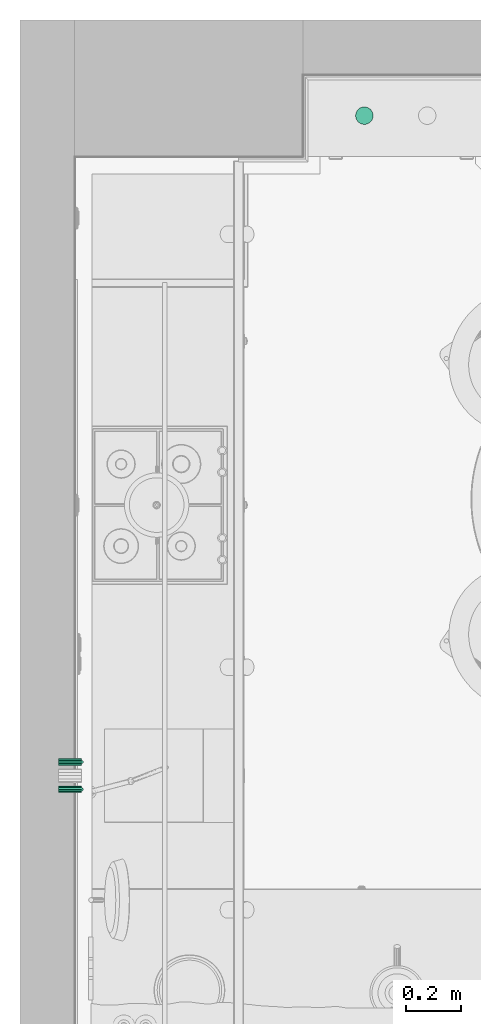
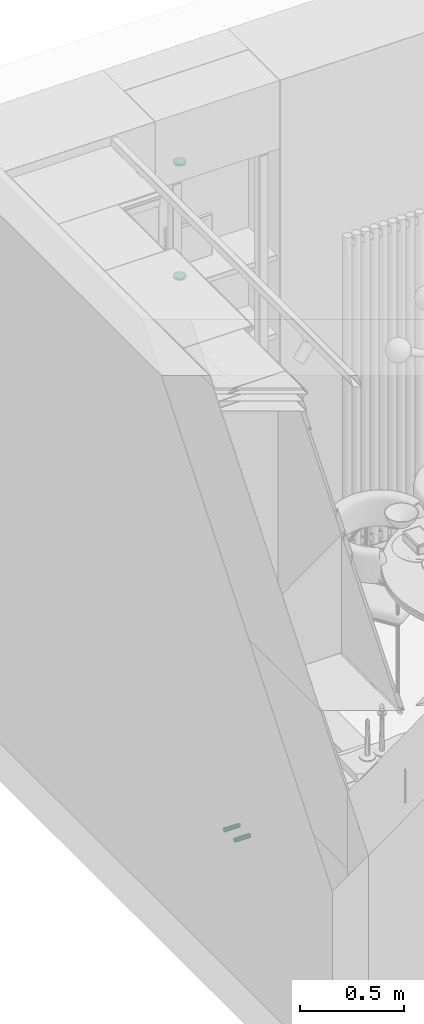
# One storey, part 9 of 11: 2 light fixtures, 2 pipe fittings.
"""IFC4 building model written with IfcOpenShell, lengths in millimetres."""

from ifc_helpers import new_model, si_unit, frame, origin_with_axes, place, context, subcontext, project, spatial, triangles, material, constituent, constituent_set, element, save


model = new_model("IFC4")

# Units and contexts
model_context = context("Model", 3, precision=0.01, world=origin_with_axes())
body_context = subcontext(model_context, "Body", "Model", "MODEL_VIEW")
ifc_project = project(units=[si_unit("LENGTHUNIT", "METRE", prefix="MILLI"), si_unit("AREAUNIT", "SQUARE_METRE"), si_unit("VOLUMEUNIT", "CUBIC_METRE"), si_unit("PLANEANGLEUNIT", "RADIAN")], contexts=[model_context])

# Site, building, storey
site_placement = place(None, origin_with_axes())
site = spatial("IfcSite", under=ifc_project, at=site_placement, Name="Участок", CompositionType="ELEMENT")
building_placement = place(site_placement, origin_with_axes())
building = spatial("IfcBuilding", under=site, at=building_placement, Name="Жилой дом", CompositionType="ELEMENT")
storey_placement = place(building_placement, origin_with_axes())
storey = spatial("IfcBuildingStorey", under=building, at=storey_placement, Name="Квартира ±0,000", CompositionType="ELEMENT", Elevation=0.0)

# Light fixtures
ifc_material_1 = material(Name="Латунь полированная (каркасы, ручки, светильники)")
ifc_constituent_1 = constituent(ifc_material_1)
ifc_material_2 = material(Name="Светодиодная лента (свечение)")
ifc_constituent_2 = constituent(ifc_material_2)
ifc_constituent_set_1 = constituent_set(constituents=[ifc_constituent_1, ifc_constituent_2], Name="Латунь полированная (каркасы, ручки, светильники) + Светодиодная лента (свечение)")
light_fixture_1_placement = place(storey_placement, frame((1028.0, 3418.0, 2587.0)))
element("IfcLightFixture", 1, at=light_fixture_1_placement, inside=storey, material=ifc_constituent_set_1, Name="Светильник мебельный накладной (01г)", PredefinedType="POINTSOURCE", context=body_context, shape_type="Tessellation", body=[
    triangles([(32.0, 32.0, 1.0), (32.0, 32.0, 1.0), (32.0, 32.0, 1.0), (32.0, 32.0, 1.0), (32.0, 32.0, 1.0), (32.0, 32.0, 1.0), (32.0, 32.0, 1.0), (32.0, 32.0, 1.0), (32.0, 32.0, 1.0), (32.0, 32.0, 1.0), (32.0, 32.0, 1.0), (32.0, 32.0, 1.0), (32.0, 32.0, 1.0), (32.0, 32.0, 1.0), (32.0, 32.0, 1.0), (32.0, 32.0, 1.0), (32.0, 32.0, 1.0), (32.0, 32.0, 1.0), (32.0, 32.0, 1.0), (32.0, 32.0, 1.0), (32.0, 32.0, 1.0), (32.0, 32.0, 1.0), (32.0, 32.0, 1.0), (32.0, 32.0, 1.0), (32.0, 32.0, 1.0), (32.0, 32.0, 1.0), (32.0, 32.0, 1.0), (32.0, 32.0, 1.0), (32.0, 32.0, 1.0), (32.0, 32.0, 1.0), (32.0, 32.0, 1.0), (32.0, 32.0, 1.0), (62.0, 32.0, 1.0), (61.4, 37.9, 1.0), (59.7, 43.5, 1.0), (56.9, 48.7, 1.0), (53.2, 53.2, 1.0), (48.7, 56.9, 1.0), (43.5, 59.7, 1.0), (37.9, 61.4, 1.0), (32.0, 62.0, 1.0), (26.1, 61.4, 1.0), (20.5, 59.7, 1.0), (15.3, 56.9, 1.0), (10.8, 53.2, 1.0), (7.1, 48.7, 1.0), (4.3, 43.5, 1.0), (2.6, 37.9, 1.0), (2.0, 32.0, 1.0), (2.6, 26.1, 1.0), (4.3, 20.5, 1.0), (7.1, 15.3, 1.0), (10.8, 10.8, 1.0), (15.3, 7.1, 1.0), (20.5, 4.3, 1.0), (26.1, 2.6, 1.0), (32.0, 2.0, 1.0), (37.9, 2.6, 1.0), (43.5, 4.3, 1.0), (48.7, 7.1, 1.0), (53.2, 10.8, 1.0), (56.9, 15.3, 1.0), (59.7, 20.5, 1.0), (61.4, 26.1, 1.0), (64.0, 32.0, 9.0), (63.4, 38.2, 9.0), (61.6, 44.2, 9.0), (58.6, 49.8, 9.0), (54.6, 54.6, 9.0), (49.8, 58.6, 9.0), (44.2, 61.6, 9.0), (38.2, 63.4, 9.0), (32.0, 64.0, 9.0), (25.8, 63.4, 9.0), (19.8, 61.6, 9.0), (14.2, 58.6, 9.0), (9.4, 54.6, 9.0), (5.4, 49.8, 9.0), (2.4, 44.2, 9.0), (0.6, 38.2, 9.0), (0.0, 32.0, 9.0), (0.6, 25.8, 9.0), (2.4, 19.8, 9.0), (5.4, 14.2, 9.0), (9.4, 9.4, 9.0), (14.2, 5.4, 9.0), (19.8, 2.4, 9.0), (25.8, 0.6, 9.0), (32.0, 0.0, 9.0), (38.2, 0.6, 9.0), (44.2, 2.4, 9.0), (49.8, 5.4, 9.0), (54.6, 9.4, 9.0), (58.6, 14.2, 9.0), (61.6, 19.8, 9.0), (63.4, 25.8, 9.0), (64.0, 32.0, 13.0), (63.4, 38.2, 13.0), (61.6, 44.2, 13.0), (58.6, 49.8, 13.0), (54.6, 54.6, 13.0), (49.8, 58.6, 13.0), (44.2, 61.6, 13.0), (38.2, 63.4, 13.0), (32.0, 64.0, 13.0), (25.8, 63.4, 13.0), (19.8, 61.6, 13.0), (14.2, 58.6, 13.0), (9.4, 54.6, 13.0), (5.4, 49.8, 13.0), (2.4, 44.2, 13.0), (0.6, 38.2, 13.0), (0.0, 32.0, 13.0), (0.6, 25.8, 13.0), (2.4, 19.8, 13.0), (5.4, 14.2, 13.0), (9.4, 9.4, 13.0), (14.2, 5.4, 13.0), (19.8, 2.4, 13.0), (25.8, 0.6, 13.0), (32.0, 0.0, 13.0), (38.2, 0.6, 13.0), (44.2, 2.4, 13.0), (49.8, 5.4, 13.0), (54.6, 9.4, 13.0), (58.6, 14.2, 13.0), (61.6, 19.8, 13.0), (63.4, 25.8, 13.0), (32.0, 32.0, 13.0), (32.0, 32.0, 13.0), (32.0, 32.0, 13.0), (32.0, 32.0, 13.0), (32.0, 32.0, 13.0), (32.0, 32.0, 13.0), (32.0, 32.0, 13.0), (32.0, 32.0, 13.0), (32.0, 32.0, 13.0), (32.0, 32.0, 13.0), (32.0, 32.0, 13.0), (32.0, 32.0, 13.0), (32.0, 32.0, 13.0), (32.0, 32.0, 13.0), (32.0, 32.0, 13.0), (32.0, 32.0, 13.0), (32.0, 32.0, 13.0), (32.0, 32.0, 13.0), (32.0, 32.0, 13.0), (32.0, 32.0, 13.0), (32.0, 32.0, 13.0), (32.0, 32.0, 13.0), (32.0, 32.0, 13.0), (32.0, 32.0, 13.0), (32.0, 32.0, 13.0), (32.0, 32.0, 13.0), (32.0, 32.0, 13.0), (32.0, 32.0, 13.0), (32.0, 32.0, 13.0), (32.0, 32.0, 13.0), (32.0, 32.0, 13.0), (32.0, 32.0, 13.0)], [[1, 2, 34], [1, 34, 33], [2, 3, 35], [2, 35, 34], [3, 4, 36], [3, 36, 35], [4, 5, 37], [4, 37, 36], [5, 6, 38], [5, 38, 37], [6, 7, 39], [6, 39, 38], [7, 8, 40], [7, 40, 39], [8, 9, 41], [8, 41, 40], [9, 10, 42], [9, 42, 41], [10, 11, 43], [10, 43, 42], [11, 12, 44], [11, 44, 43], [12, 13, 45], [12, 45, 44], [13, 14, 46], [13, 46, 45], [14, 15, 47], [14, 47, 46], [15, 16, 48], [15, 48, 47], [16, 17, 49], [16, 49, 48], [17, 18, 50], [17, 50, 49], [18, 19, 51], [18, 51, 50], [19, 20, 52], [19, 52, 51], [20, 21, 53], [20, 53, 52], [21, 22, 54], [21, 54, 53], [22, 23, 55], [22, 55, 54], [23, 24, 56], [23, 56, 55], [24, 25, 57], [24, 57, 56], [25, 26, 58], [25, 58, 57], [26, 27, 59], [26, 59, 58], [27, 28, 60], [27, 60, 59], [28, 29, 61], [28, 61, 60], [29, 30, 62], [29, 62, 61], [30, 31, 63], [30, 63, 62], [31, 32, 64], [31, 64, 63], [32, 1, 33], [32, 33, 64], [33, 34, 66], [33, 66, 65], [34, 35, 67], [34, 67, 66], [35, 36, 68], [35, 68, 67], [36, 37, 69], [36, 69, 68], [37, 38, 70], [37, 70, 69], [38, 39, 71], [38, 71, 70], [39, 40, 72], [39, 72, 71], [40, 41, 73], [40, 73, 72], [41, 42, 74], [41, 74, 73], [42, 43, 75], [42, 75, 74], [43, 44, 76], [43, 76, 75], [44, 45, 77], [44, 77, 76], [45, 46, 78], [45, 78, 77], [46, 47, 79], [46, 79, 78], [47, 48, 80], [47, 80, 79], [48, 49, 81], [48, 81, 80], [49, 50, 82], [49, 82, 81], [50, 51, 83], [50, 83, 82], [51, 52, 84], [51, 84, 83], [52, 53, 85], [52, 85, 84], [53, 54, 86], [53, 86, 85], [54, 55, 87], [54, 87, 86], [55, 56, 88], [55, 88, 87], [56, 57, 89], [56, 89, 88], [57, 58, 90], [57, 90, 89], [58, 59, 91], [58, 91, 90], [59, 60, 92], [59, 92, 91], [60, 61, 93], [60, 93, 92], [61, 62, 94], [61, 94, 93], [62, 63, 95], [62, 95, 94], [63, 64, 96], [63, 96, 95], [64, 33, 65], [64, 65, 96], [65, 66, 98], [65, 98, 97], [66, 67, 99], [66, 99, 98], [67, 68, 100], [67, 100, 99], [68, 69, 101], [68, 101, 100], [69, 70, 102], [69, 102, 101], [70, 71, 103], [70, 103, 102], [71, 72, 104], [71, 104, 103], [72, 73, 105], [72, 105, 104], [73, 74, 106], [73, 106, 105], [74, 75, 107], [74, 107, 106], [75, 76, 108], [75, 108, 107], [76, 77, 109], [76, 109, 108], [77, 78, 110], [77, 110, 109], [78, 79, 111], [78, 111, 110], [79, 80, 112], [79, 112, 111], [80, 81, 113], [80, 113, 112], [81, 82, 114], [81, 114, 113], [82, 83, 115], [82, 115, 114], [83, 84, 116], [83, 116, 115], [84, 85, 117], [84, 117, 116], [85, 86, 118], [85, 118, 117], [86, 87, 119], [86, 119, 118], [87, 88, 120], [87, 120, 119], [88, 89, 121], [88, 121, 120], [89, 90, 122], [89, 122, 121], [90, 91, 123], [90, 123, 122], [91, 92, 124], [91, 124, 123], [92, 93, 125], [92, 125, 124], [93, 94, 126], [93, 126, 125], [94, 95, 127], [94, 127, 126], [95, 96, 128], [95, 128, 127], [96, 65, 97], [96, 97, 128], [97, 98, 130], [97, 130, 129], [98, 99, 131], [98, 131, 130], [99, 100, 132], [99, 132, 131], [100, 101, 133], [100, 133, 132], [101, 102, 134], [101, 134, 133], [102, 103, 135], [102, 135, 134], [103, 104, 136], [103, 136, 135], [104, 105, 137], [104, 137, 136], [105, 106, 138], [105, 138, 137], [106, 107, 139], [106, 139, 138], [107, 108, 140], [107, 140, 139], [108, 109, 141], [108, 141, 140], [109, 110, 142], [109, 142, 141], [110, 111, 143], [110, 143, 142], [111, 112, 144], [111, 144, 143], [112, 113, 145], [112, 145, 144], [113, 114, 146], [113, 146, 145], [114, 115, 147], [114, 147, 146], [115, 116, 148], [115, 148, 147], [116, 117, 149], [116, 149, 148], [117, 118, 150], [117, 150, 149], [118, 119, 151], [118, 151, 150], [119, 120, 152], [119, 152, 151], [120, 121, 153], [120, 153, 152], [121, 122, 154], [121, 154, 153], [122, 123, 155], [122, 155, 154], [123, 124, 156], [123, 156, 155], [124, 125, 157], [124, 157, 156], [125, 126, 158], [125, 158, 157], [126, 127, 159], [126, 159, 158], [127, 128, 160], [127, 160, 159], [128, 97, 129], [128, 129, 160]]),
    triangles([(32.0, 32.0, 0.0), (32.0, 32.0, 0.0), (32.0, 32.0, 0.0), (32.0, 32.0, 0.0), (32.0, 32.0, 0.0), (32.0, 32.0, 0.0), (32.0, 32.0, 0.0), (32.0, 32.0, 0.0), (32.0, 32.0, 0.0), (32.0, 32.0, 0.0), (32.0, 32.0, 0.0), (32.0, 32.0, 0.0), (32.0, 32.0, 0.0), (32.0, 32.0, 0.0), (32.0, 32.0, 0.0), (32.0, 32.0, 0.0), (32.0, 32.0, 0.0), (32.0, 32.0, 0.0), (32.0, 32.0, 0.0), (32.0, 32.0, 0.0), (32.0, 32.0, 0.0), (32.0, 32.0, 0.0), (32.0, 32.0, 0.0), (32.0, 32.0, 0.0), (50.0, 32.0, 0.0), (49.4, 36.7, 0.0), (47.6, 41.0, 0.0), (44.7, 44.7, 0.0), (41.0, 47.6, 0.0), (36.7, 49.4, 0.0), (32.0, 50.0, 0.0), (27.3, 49.4, 0.0), (23.0, 47.6, 0.0), (19.3, 44.7, 0.0), (16.4, 41.0, 0.0), (14.6, 36.7, 0.0), (14.0, 32.0, 0.0), (14.6, 27.3, 0.0), (16.4, 23.0, 0.0), (19.3, 19.3, 0.0), (23.0, 16.4, 0.0), (27.3, 14.6, 0.0), (32.0, 14.0, 0.0), (36.7, 14.6, 0.0), (41.0, 16.4, 0.0), (44.7, 19.3, 0.0), (47.6, 23.0, 0.0), (49.4, 27.3, 0.0), (50.0, 32.0, 1.0), (49.4, 36.7, 1.0), (47.6, 41.0, 1.0), (44.7, 44.7, 1.0), (41.0, 47.6, 1.0), (36.7, 49.4, 1.0), (32.0, 50.0, 1.0), (27.3, 49.4, 1.0), (23.0, 47.6, 1.0), (19.3, 44.7, 1.0), (16.4, 41.0, 1.0), (14.6, 36.7, 1.0), (14.0, 32.0, 1.0), (14.6, 27.3, 1.0), (16.4, 23.0, 1.0), (19.3, 19.3, 1.0), (23.0, 16.4, 1.0), (27.3, 14.6, 1.0), (32.0, 14.0, 1.0), (36.7, 14.6, 1.0), (41.0, 16.4, 1.0), (44.7, 19.3, 1.0), (47.6, 23.0, 1.0), (49.4, 27.3, 1.0), (32.0, 32.0, 1.0), (32.0, 32.0, 1.0), (32.0, 32.0, 1.0), (32.0, 32.0, 1.0), (32.0, 32.0, 1.0), (32.0, 32.0, 1.0), (32.0, 32.0, 1.0), (32.0, 32.0, 1.0), (32.0, 32.0, 1.0), (32.0, 32.0, 1.0), (32.0, 32.0, 1.0), (32.0, 32.0, 1.0), (32.0, 32.0, 1.0), (32.0, 32.0, 1.0), (32.0, 32.0, 1.0), (32.0, 32.0, 1.0), (32.0, 32.0, 1.0), (32.0, 32.0, 1.0), (32.0, 32.0, 1.0), (32.0, 32.0, 1.0), (32.0, 32.0, 1.0), (32.0, 32.0, 1.0), (32.0, 32.0, 1.0), (32.0, 32.0, 1.0)], [[1, 2, 26], [1, 26, 25], [2, 3, 27], [2, 27, 26], [3, 4, 28], [3, 28, 27], [4, 5, 29], [4, 29, 28], [5, 6, 30], [5, 30, 29], [6, 7, 31], [6, 31, 30], [7, 8, 32], [7, 32, 31], [8, 9, 33], [8, 33, 32], [9, 10, 34], [9, 34, 33], [10, 11, 35], [10, 35, 34], [11, 12, 36], [11, 36, 35], [12, 13, 37], [12, 37, 36], [13, 14, 38], [13, 38, 37], [14, 15, 39], [14, 39, 38], [15, 16, 40], [15, 40, 39], [16, 17, 41], [16, 41, 40], [17, 18, 42], [17, 42, 41], [18, 19, 43], [18, 43, 42], [19, 20, 44], [19, 44, 43], [20, 21, 45], [20, 45, 44], [21, 22, 46], [21, 46, 45], [22, 23, 47], [22, 47, 46], [23, 24, 48], [23, 48, 47], [24, 1, 25], [24, 25, 48], [25, 26, 50], [25, 50, 49], [26, 27, 51], [26, 51, 50], [27, 28, 52], [27, 52, 51], [28, 29, 53], [28, 53, 52], [29, 30, 54], [29, 54, 53], [30, 31, 55], [30, 55, 54], [31, 32, 56], [31, 56, 55], [32, 33, 57], [32, 57, 56], [33, 34, 58], [33, 58, 57], [34, 35, 59], [34, 59, 58], [35, 36, 60], [35, 60, 59], [36, 37, 61], [36, 61, 60], [37, 38, 62], [37, 62, 61], [38, 39, 63], [38, 63, 62], [39, 40, 64], [39, 64, 63], [40, 41, 65], [40, 65, 64], [41, 42, 66], [41, 66, 65], [42, 43, 67], [42, 67, 66], [43, 44, 68], [43, 68, 67], [44, 45, 69], [44, 69, 68], [45, 46, 70], [45, 70, 69], [46, 47, 71], [46, 71, 70], [47, 48, 72], [47, 72, 71], [48, 25, 49], [48, 49, 72], [49, 50, 74], [49, 74, 73], [50, 51, 75], [50, 75, 74], [51, 52, 76], [51, 76, 75], [52, 53, 77], [52, 77, 76], [53, 54, 78], [53, 78, 77], [54, 55, 79], [54, 79, 78], [55, 56, 80], [55, 80, 79], [56, 57, 81], [56, 81, 80], [57, 58, 82], [57, 82, 81], [58, 59, 83], [58, 83, 82], [59, 60, 84], [59, 84, 83], [60, 61, 85], [60, 85, 84], [61, 62, 86], [61, 86, 85], [62, 63, 87], [62, 87, 86], [63, 64, 88], [63, 88, 87], [64, 65, 89], [64, 89, 88], [65, 66, 90], [65, 90, 89], [66, 67, 91], [66, 91, 90], [67, 68, 92], [67, 92, 91], [68, 69, 93], [68, 93, 92], [69, 70, 94], [69, 94, 93], [70, 71, 95], [70, 95, 94], [71, 72, 96], [71, 96, 95], [72, 49, 73], [72, 73, 96]]),
])
light_fixture_2_placement = place(storey_placement, frame((1028.0, 3418.0, 1917.0)))
element("IfcLightFixture", 2, at=light_fixture_2_placement, inside=storey, material=ifc_constituent_set_1, Name="Светильник мебельный накладной (01г)", PredefinedType="POINTSOURCE", context=body_context, shape_type="Tessellation", body=[
    triangles([(32.0, 32.0, 1.0), (32.0, 32.0, 1.0), (32.0, 32.0, 1.0), (32.0, 32.0, 1.0), (32.0, 32.0, 1.0), (32.0, 32.0, 1.0), (32.0, 32.0, 1.0), (32.0, 32.0, 1.0), (32.0, 32.0, 1.0), (32.0, 32.0, 1.0), (32.0, 32.0, 1.0), (32.0, 32.0, 1.0), (32.0, 32.0, 1.0), (32.0, 32.0, 1.0), (32.0, 32.0, 1.0), (32.0, 32.0, 1.0), (32.0, 32.0, 1.0), (32.0, 32.0, 1.0), (32.0, 32.0, 1.0), (32.0, 32.0, 1.0), (32.0, 32.0, 1.0), (32.0, 32.0, 1.0), (32.0, 32.0, 1.0), (32.0, 32.0, 1.0), (32.0, 32.0, 1.0), (32.0, 32.0, 1.0), (32.0, 32.0, 1.0), (32.0, 32.0, 1.0), (32.0, 32.0, 1.0), (32.0, 32.0, 1.0), (32.0, 32.0, 1.0), (32.0, 32.0, 1.0), (62.0, 32.0, 1.0), (61.4, 37.9, 1.0), (59.7, 43.5, 1.0), (56.9, 48.7, 1.0), (53.2, 53.2, 1.0), (48.7, 56.9, 1.0), (43.5, 59.7, 1.0), (37.9, 61.4, 1.0), (32.0, 62.0, 1.0), (26.1, 61.4, 1.0), (20.5, 59.7, 1.0), (15.3, 56.9, 1.0), (10.8, 53.2, 1.0), (7.1, 48.7, 1.0), (4.3, 43.5, 1.0), (2.6, 37.9, 1.0), (2.0, 32.0, 1.0), (2.6, 26.1, 1.0), (4.3, 20.5, 1.0), (7.1, 15.3, 1.0), (10.8, 10.8, 1.0), (15.3, 7.1, 1.0), (20.5, 4.3, 1.0), (26.1, 2.6, 1.0), (32.0, 2.0, 1.0), (37.9, 2.6, 1.0), (43.5, 4.3, 1.0), (48.7, 7.1, 1.0), (53.2, 10.8, 1.0), (56.9, 15.3, 1.0), (59.7, 20.5, 1.0), (61.4, 26.1, 1.0), (64.0, 32.0, 9.0), (63.4, 38.2, 9.0), (61.6, 44.2, 9.0), (58.6, 49.8, 9.0), (54.6, 54.6, 9.0), (49.8, 58.6, 9.0), (44.2, 61.6, 9.0), (38.2, 63.4, 9.0), (32.0, 64.0, 9.0), (25.8, 63.4, 9.0), (19.8, 61.6, 9.0), (14.2, 58.6, 9.0), (9.4, 54.6, 9.0), (5.4, 49.8, 9.0), (2.4, 44.2, 9.0), (0.6, 38.2, 9.0), (0.0, 32.0, 9.0), (0.6, 25.8, 9.0), (2.4, 19.8, 9.0), (5.4, 14.2, 9.0), (9.4, 9.4, 9.0), (14.2, 5.4, 9.0), (19.8, 2.4, 9.0), (25.8, 0.6, 9.0), (32.0, 0.0, 9.0), (38.2, 0.6, 9.0), (44.2, 2.4, 9.0), (49.8, 5.4, 9.0), (54.6, 9.4, 9.0), (58.6, 14.2, 9.0), (61.6, 19.8, 9.0), (63.4, 25.8, 9.0), (64.0, 32.0, 13.0), (63.4, 38.2, 13.0), (61.6, 44.2, 13.0), (58.6, 49.8, 13.0), (54.6, 54.6, 13.0), (49.8, 58.6, 13.0), (44.2, 61.6, 13.0), (38.2, 63.4, 13.0), (32.0, 64.0, 13.0), (25.8, 63.4, 13.0), (19.8, 61.6, 13.0), (14.2, 58.6, 13.0), (9.4, 54.6, 13.0), (5.4, 49.8, 13.0), (2.4, 44.2, 13.0), (0.6, 38.2, 13.0), (0.0, 32.0, 13.0), (0.6, 25.8, 13.0), (2.4, 19.8, 13.0), (5.4, 14.2, 13.0), (9.4, 9.4, 13.0), (14.2, 5.4, 13.0), (19.8, 2.4, 13.0), (25.8, 0.6, 13.0), (32.0, 0.0, 13.0), (38.2, 0.6, 13.0), (44.2, 2.4, 13.0), (49.8, 5.4, 13.0), (54.6, 9.4, 13.0), (58.6, 14.2, 13.0), (61.6, 19.8, 13.0), (63.4, 25.8, 13.0), (32.0, 32.0, 13.0), (32.0, 32.0, 13.0), (32.0, 32.0, 13.0), (32.0, 32.0, 13.0), (32.0, 32.0, 13.0), (32.0, 32.0, 13.0), (32.0, 32.0, 13.0), (32.0, 32.0, 13.0), (32.0, 32.0, 13.0), (32.0, 32.0, 13.0), (32.0, 32.0, 13.0), (32.0, 32.0, 13.0), (32.0, 32.0, 13.0), (32.0, 32.0, 13.0), (32.0, 32.0, 13.0), (32.0, 32.0, 13.0), (32.0, 32.0, 13.0), (32.0, 32.0, 13.0), (32.0, 32.0, 13.0), (32.0, 32.0, 13.0), (32.0, 32.0, 13.0), (32.0, 32.0, 13.0), (32.0, 32.0, 13.0), (32.0, 32.0, 13.0), (32.0, 32.0, 13.0), (32.0, 32.0, 13.0), (32.0, 32.0, 13.0), (32.0, 32.0, 13.0), (32.0, 32.0, 13.0), (32.0, 32.0, 13.0), (32.0, 32.0, 13.0), (32.0, 32.0, 13.0)], [[1, 2, 34], [1, 34, 33], [2, 3, 35], [2, 35, 34], [3, 4, 36], [3, 36, 35], [4, 5, 37], [4, 37, 36], [5, 6, 38], [5, 38, 37], [6, 7, 39], [6, 39, 38], [7, 8, 40], [7, 40, 39], [8, 9, 41], [8, 41, 40], [9, 10, 42], [9, 42, 41], [10, 11, 43], [10, 43, 42], [11, 12, 44], [11, 44, 43], [12, 13, 45], [12, 45, 44], [13, 14, 46], [13, 46, 45], [14, 15, 47], [14, 47, 46], [15, 16, 48], [15, 48, 47], [16, 17, 49], [16, 49, 48], [17, 18, 50], [17, 50, 49], [18, 19, 51], [18, 51, 50], [19, 20, 52], [19, 52, 51], [20, 21, 53], [20, 53, 52], [21, 22, 54], [21, 54, 53], [22, 23, 55], [22, 55, 54], [23, 24, 56], [23, 56, 55], [24, 25, 57], [24, 57, 56], [25, 26, 58], [25, 58, 57], [26, 27, 59], [26, 59, 58], [27, 28, 60], [27, 60, 59], [28, 29, 61], [28, 61, 60], [29, 30, 62], [29, 62, 61], [30, 31, 63], [30, 63, 62], [31, 32, 64], [31, 64, 63], [32, 1, 33], [32, 33, 64], [33, 34, 66], [33, 66, 65], [34, 35, 67], [34, 67, 66], [35, 36, 68], [35, 68, 67], [36, 37, 69], [36, 69, 68], [37, 38, 70], [37, 70, 69], [38, 39, 71], [38, 71, 70], [39, 40, 72], [39, 72, 71], [40, 41, 73], [40, 73, 72], [41, 42, 74], [41, 74, 73], [42, 43, 75], [42, 75, 74], [43, 44, 76], [43, 76, 75], [44, 45, 77], [44, 77, 76], [45, 46, 78], [45, 78, 77], [46, 47, 79], [46, 79, 78], [47, 48, 80], [47, 80, 79], [48, 49, 81], [48, 81, 80], [49, 50, 82], [49, 82, 81], [50, 51, 83], [50, 83, 82], [51, 52, 84], [51, 84, 83], [52, 53, 85], [52, 85, 84], [53, 54, 86], [53, 86, 85], [54, 55, 87], [54, 87, 86], [55, 56, 88], [55, 88, 87], [56, 57, 89], [56, 89, 88], [57, 58, 90], [57, 90, 89], [58, 59, 91], [58, 91, 90], [59, 60, 92], [59, 92, 91], [60, 61, 93], [60, 93, 92], [61, 62, 94], [61, 94, 93], [62, 63, 95], [62, 95, 94], [63, 64, 96], [63, 96, 95], [64, 33, 65], [64, 65, 96], [65, 66, 98], [65, 98, 97], [66, 67, 99], [66, 99, 98], [67, 68, 100], [67, 100, 99], [68, 69, 101], [68, 101, 100], [69, 70, 102], [69, 102, 101], [70, 71, 103], [70, 103, 102], [71, 72, 104], [71, 104, 103], [72, 73, 105], [72, 105, 104], [73, 74, 106], [73, 106, 105], [74, 75, 107], [74, 107, 106], [75, 76, 108], [75, 108, 107], [76, 77, 109], [76, 109, 108], [77, 78, 110], [77, 110, 109], [78, 79, 111], [78, 111, 110], [79, 80, 112], [79, 112, 111], [80, 81, 113], [80, 113, 112], [81, 82, 114], [81, 114, 113], [82, 83, 115], [82, 115, 114], [83, 84, 116], [83, 116, 115], [84, 85, 117], [84, 117, 116], [85, 86, 118], [85, 118, 117], [86, 87, 119], [86, 119, 118], [87, 88, 120], [87, 120, 119], [88, 89, 121], [88, 121, 120], [89, 90, 122], [89, 122, 121], [90, 91, 123], [90, 123, 122], [91, 92, 124], [91, 124, 123], [92, 93, 125], [92, 125, 124], [93, 94, 126], [93, 126, 125], [94, 95, 127], [94, 127, 126], [95, 96, 128], [95, 128, 127], [96, 65, 97], [96, 97, 128], [97, 98, 130], [97, 130, 129], [98, 99, 131], [98, 131, 130], [99, 100, 132], [99, 132, 131], [100, 101, 133], [100, 133, 132], [101, 102, 134], [101, 134, 133], [102, 103, 135], [102, 135, 134], [103, 104, 136], [103, 136, 135], [104, 105, 137], [104, 137, 136], [105, 106, 138], [105, 138, 137], [106, 107, 139], [106, 139, 138], [107, 108, 140], [107, 140, 139], [108, 109, 141], [108, 141, 140], [109, 110, 142], [109, 142, 141], [110, 111, 143], [110, 143, 142], [111, 112, 144], [111, 144, 143], [112, 113, 145], [112, 145, 144], [113, 114, 146], [113, 146, 145], [114, 115, 147], [114, 147, 146], [115, 116, 148], [115, 148, 147], [116, 117, 149], [116, 149, 148], [117, 118, 150], [117, 150, 149], [118, 119, 151], [118, 151, 150], [119, 120, 152], [119, 152, 151], [120, 121, 153], [120, 153, 152], [121, 122, 154], [121, 154, 153], [122, 123, 155], [122, 155, 154], [123, 124, 156], [123, 156, 155], [124, 125, 157], [124, 157, 156], [125, 126, 158], [125, 158, 157], [126, 127, 159], [126, 159, 158], [127, 128, 160], [127, 160, 159], [128, 97, 129], [128, 129, 160]]),
    triangles([(32.0, 32.0, 0.0), (32.0, 32.0, 0.0), (32.0, 32.0, 0.0), (32.0, 32.0, 0.0), (32.0, 32.0, 0.0), (32.0, 32.0, 0.0), (32.0, 32.0, 0.0), (32.0, 32.0, 0.0), (32.0, 32.0, 0.0), (32.0, 32.0, 0.0), (32.0, 32.0, 0.0), (32.0, 32.0, 0.0), (32.0, 32.0, 0.0), (32.0, 32.0, 0.0), (32.0, 32.0, 0.0), (32.0, 32.0, 0.0), (32.0, 32.0, 0.0), (32.0, 32.0, 0.0), (32.0, 32.0, 0.0), (32.0, 32.0, 0.0), (32.0, 32.0, 0.0), (32.0, 32.0, 0.0), (32.0, 32.0, 0.0), (32.0, 32.0, 0.0), (50.0, 32.0, 0.0), (49.4, 36.7, 0.0), (47.6, 41.0, 0.0), (44.7, 44.7, 0.0), (41.0, 47.6, 0.0), (36.7, 49.4, 0.0), (32.0, 50.0, 0.0), (27.3, 49.4, 0.0), (23.0, 47.6, 0.0), (19.3, 44.7, 0.0), (16.4, 41.0, 0.0), (14.6, 36.7, 0.0), (14.0, 32.0, 0.0), (14.6, 27.3, 0.0), (16.4, 23.0, 0.0), (19.3, 19.3, 0.0), (23.0, 16.4, 0.0), (27.3, 14.6, 0.0), (32.0, 14.0, 0.0), (36.7, 14.6, 0.0), (41.0, 16.4, 0.0), (44.7, 19.3, 0.0), (47.6, 23.0, 0.0), (49.4, 27.3, 0.0), (50.0, 32.0, 1.0), (49.4, 36.7, 1.0), (47.6, 41.0, 1.0), (44.7, 44.7, 1.0), (41.0, 47.6, 1.0), (36.7, 49.4, 1.0), (32.0, 50.0, 1.0), (27.3, 49.4, 1.0), (23.0, 47.6, 1.0), (19.3, 44.7, 1.0), (16.4, 41.0, 1.0), (14.6, 36.7, 1.0), (14.0, 32.0, 1.0), (14.6, 27.3, 1.0), (16.4, 23.0, 1.0), (19.3, 19.3, 1.0), (23.0, 16.4, 1.0), (27.3, 14.6, 1.0), (32.0, 14.0, 1.0), (36.7, 14.6, 1.0), (41.0, 16.4, 1.0), (44.7, 19.3, 1.0), (47.6, 23.0, 1.0), (49.4, 27.3, 1.0), (32.0, 32.0, 1.0), (32.0, 32.0, 1.0), (32.0, 32.0, 1.0), (32.0, 32.0, 1.0), (32.0, 32.0, 1.0), (32.0, 32.0, 1.0), (32.0, 32.0, 1.0), (32.0, 32.0, 1.0), (32.0, 32.0, 1.0), (32.0, 32.0, 1.0), (32.0, 32.0, 1.0), (32.0, 32.0, 1.0), (32.0, 32.0, 1.0), (32.0, 32.0, 1.0), (32.0, 32.0, 1.0), (32.0, 32.0, 1.0), (32.0, 32.0, 1.0), (32.0, 32.0, 1.0), (32.0, 32.0, 1.0), (32.0, 32.0, 1.0), (32.0, 32.0, 1.0), (32.0, 32.0, 1.0), (32.0, 32.0, 1.0), (32.0, 32.0, 1.0)], [[1, 2, 26], [1, 26, 25], [2, 3, 27], [2, 27, 26], [3, 4, 28], [3, 28, 27], [4, 5, 29], [4, 29, 28], [5, 6, 30], [5, 30, 29], [6, 7, 31], [6, 31, 30], [7, 8, 32], [7, 32, 31], [8, 9, 33], [8, 33, 32], [9, 10, 34], [9, 34, 33], [10, 11, 35], [10, 35, 34], [11, 12, 36], [11, 36, 35], [12, 13, 37], [12, 37, 36], [13, 14, 38], [13, 38, 37], [14, 15, 39], [14, 39, 38], [15, 16, 40], [15, 40, 39], [16, 17, 41], [16, 41, 40], [17, 18, 42], [17, 42, 41], [18, 19, 43], [18, 43, 42], [19, 20, 44], [19, 44, 43], [20, 21, 45], [20, 45, 44], [21, 22, 46], [21, 46, 45], [22, 23, 47], [22, 47, 46], [23, 24, 48], [23, 48, 47], [24, 1, 25], [24, 25, 48], [25, 26, 50], [25, 50, 49], [26, 27, 51], [26, 51, 50], [27, 28, 52], [27, 52, 51], [28, 29, 53], [28, 53, 52], [29, 30, 54], [29, 54, 53], [30, 31, 55], [30, 55, 54], [31, 32, 56], [31, 56, 55], [32, 33, 57], [32, 57, 56], [33, 34, 58], [33, 58, 57], [34, 35, 59], [34, 59, 58], [35, 36, 60], [35, 60, 59], [36, 37, 61], [36, 61, 60], [37, 38, 62], [37, 62, 61], [38, 39, 63], [38, 63, 62], [39, 40, 64], [39, 64, 63], [40, 41, 65], [40, 65, 64], [41, 42, 66], [41, 66, 65], [42, 43, 67], [42, 67, 66], [43, 44, 68], [43, 68, 67], [44, 45, 69], [44, 69, 68], [45, 46, 70], [45, 70, 69], [46, 47, 71], [46, 71, 70], [47, 48, 72], [47, 72, 71], [48, 25, 49], [48, 49, 72], [49, 50, 74], [49, 74, 73], [50, 51, 75], [50, 75, 74], [51, 52, 76], [51, 76, 75], [52, 53, 77], [52, 77, 76], [53, 54, 78], [53, 78, 77], [54, 55, 79], [54, 79, 78], [55, 56, 80], [55, 80, 79], [56, 57, 81], [56, 81, 80], [57, 58, 82], [57, 82, 81], [58, 59, 83], [58, 83, 82], [59, 60, 84], [59, 84, 83], [60, 61, 85], [60, 85, 84], [61, 62, 86], [61, 86, 85], [62, 63, 87], [62, 87, 86], [63, 64, 88], [63, 88, 87], [64, 65, 89], [64, 89, 88], [65, 66, 90], [65, 90, 89], [66, 67, 91], [66, 91, 90], [67, 68, 92], [67, 92, 91], [68, 69, 93], [68, 93, 92], [69, 70, 94], [69, 94, 93], [70, 71, 95], [70, 95, 94], [71, 72, 96], [71, 96, 95], [72, 49, 73], [72, 73, 96]]),
])

# Pipe fittings
ifc_material_3 = material(Name="Латунь матовая (фурнитура, декор светильников)")
ifc_constituent_3 = constituent(ifc_material_3)
ifc_material_4 = material(Name="PEX в гофре — ХВС (синий)")
ifc_constituent_4 = constituent(ifc_material_4)
ifc_constituent_set_2 = constituent_set(constituents=[ifc_constituent_3, ifc_constituent_4], Name="Латунь матовая (фурнитура, декор светильников) + PEX в гофре — ХВС (синий)")
pipe_fitting_1_placement = place(storey_placement, frame((-60.0, 973.0, 488.0)))
element("IfcPipeFitting", 3, at=pipe_fitting_1_placement, inside=storey, material=ifc_constituent_set_2, Name="Вывод ХВС (водорозетка) — С1 мойка", PredefinedType="EXIT", context=body_context, shape_type="Tessellation", body=[
    triangles([(0.0, 0.0, 12.0), (0.0, 1.6, 6.0), (85.0, 1.6, 6.0), (85.0, 0.0, 12.0), (0.0, 1.6, 6.0), (0.0, 6.0, 1.6), (85.0, 6.0, 1.6), (85.0, 1.6, 6.0), (0.0, 6.0, 1.6), (0.0, 12.0, 0.0), (85.0, 12.0, 0.0), (85.0, 6.0, 1.6), (0.0, 12.0, 0.0), (0.0, 18.0, 1.6), (85.0, 18.0, 1.6), (85.0, 12.0, 0.0), (0.0, 18.0, 1.6), (0.0, 22.4, 6.0), (85.0, 22.4, 6.0), (85.0, 18.0, 1.6), (0.0, 22.4, 6.0), (0.0, 24.0, 12.0), (85.0, 24.0, 12.0), (85.0, 22.4, 6.0), (0.0, 24.0, 12.0), (0.0, 22.4, 18.0), (85.0, 22.4, 18.0), (85.0, 24.0, 12.0), (0.0, 22.4, 18.0), (0.0, 18.0, 22.4), (85.0, 18.0, 22.4), (85.0, 22.4, 18.0), (0.0, 18.0, 22.4), (0.0, 12.0, 24.0), (85.0, 12.0, 24.0), (85.0, 18.0, 22.4), (0.0, 12.0, 24.0), (0.0, 6.0, 22.4), (85.0, 6.0, 22.4), (85.0, 12.0, 24.0), (0.0, 6.0, 22.4), (0.0, 1.6, 18.0), (85.0, 1.6, 18.0), (85.0, 6.0, 22.4), (0.0, 1.6, 18.0), (0.0, 0.0, 12.0), (85.0, 0.0, 12.0), (85.0, 1.6, 18.0), (85.0, 0.0, 12.0), (85.0, 1.6, 6.0), (85.0, 6.0, 1.6), (85.0, 12.0, 0.0), (85.0, 18.0, 1.6), (85.0, 22.4, 6.0), (85.0, 24.0, 12.0), (85.0, 22.4, 18.0), (85.0, 18.0, 22.4), (85.0, 12.0, 24.0), (85.0, 6.0, 22.4), (85.0, 1.6, 18.0), (0.0, 1.6, 18.0), (0.0, 6.0, 22.4), (0.0, 12.0, 24.0), (0.0, 18.0, 22.4), (0.0, 22.4, 18.0), (0.0, 24.0, 12.0), (0.0, 22.4, 6.0), (0.0, 18.0, 1.6), (0.0, 12.0, 0.0), (0.0, 6.0, 1.6), (0.0, 1.6, 6.0), (0.0, 0.0, 12.0)], [[1, 2, 3], [1, 3, 4], [5, 6, 7], [5, 7, 8], [9, 10, 11], [9, 11, 12], [13, 14, 15], [13, 15, 16], [17, 18, 19], [17, 19, 20], [21, 22, 23], [21, 23, 24], [25, 26, 27], [25, 27, 28], [29, 30, 31], [29, 31, 32], [33, 34, 35], [33, 35, 36], [37, 38, 39], [37, 39, 40], [41, 42, 43], [41, 43, 44], [45, 46, 47], [45, 47, 48], [49, 50, 51], [49, 51, 52], [49, 52, 53], [49, 53, 54], [49, 54, 55], [49, 55, 56], [49, 56, 57], [49, 57, 58], [49, 58, 59], [49, 59, 60], [61, 62, 63], [61, 63, 64], [61, 64, 65], [61, 65, 66], [61, 66, 67], [61, 67, 68], [61, 68, 69], [61, 69, 70], [61, 70, 71], [61, 71, 72]]),
    triangles([(92.0, 12.0, 6.0), (90.2, 16.2, 6.0), (90.2, 16.2, 18.0), (92.0, 12.0, 18.0), (90.2, 16.2, 6.0), (86.0, 18.0, 6.0), (86.0, 18.0, 18.0), (90.2, 16.2, 18.0), (86.0, 18.0, 6.0), (81.8, 16.2, 6.0), (81.8, 16.2, 18.0), (86.0, 18.0, 18.0), (81.8, 16.2, 6.0), (80.0, 12.0, 6.0), (80.0, 12.0, 18.0), (81.8, 16.2, 18.0), (80.0, 12.0, 6.0), (81.8, 7.8, 6.0), (81.8, 7.8, 18.0), (80.0, 12.0, 18.0), (81.8, 7.8, 6.0), (86.0, 6.0, 6.0), (86.0, 6.0, 18.0), (81.8, 7.8, 18.0), (86.0, 6.0, 6.0), (90.2, 7.8, 6.0), (90.2, 7.8, 18.0), (86.0, 6.0, 18.0), (90.2, 7.8, 6.0), (92.0, 12.0, 6.0), (92.0, 12.0, 18.0), (90.2, 7.8, 18.0), (90.2, 7.8, 18.0), (92.0, 12.0, 18.0), (90.2, 16.2, 18.0), (90.2, 7.8, 18.0), (90.2, 16.2, 18.0), (86.0, 18.0, 18.0), (90.2, 7.8, 18.0), (86.0, 18.0, 18.0), (81.8, 16.2, 18.0), (90.2, 7.8, 18.0), (81.8, 16.2, 18.0), (80.0, 12.0, 18.0), (90.2, 7.8, 18.0), (80.0, 12.0, 18.0), (81.8, 7.8, 18.0), (81.8, 7.8, 18.0), (86.0, 6.0, 18.0), (90.2, 7.8, 18.0), (90.2, 16.2, 6.0), (92.0, 12.0, 6.0), (90.2, 7.8, 6.0), (86.0, 18.0, 6.0), (90.2, 16.2, 6.0), (90.2, 7.8, 6.0), (81.8, 16.2, 6.0), (86.0, 18.0, 6.0), (90.2, 7.8, 6.0), (80.0, 12.0, 6.0), (81.8, 16.2, 6.0), (90.2, 7.8, 6.0), (81.8, 7.8, 6.0), (80.0, 12.0, 6.0), (90.2, 7.8, 6.0), (90.2, 7.8, 6.0), (86.0, 6.0, 6.0), (81.8, 7.8, 6.0)], [[1, 2, 3], [1, 3, 4], [5, 6, 7], [5, 7, 8], [9, 10, 11], [9, 11, 12], [13, 14, 15], [13, 15, 16], [17, 18, 19], [17, 19, 20], [21, 22, 23], [21, 23, 24], [25, 26, 27], [25, 27, 28], [29, 30, 31], [29, 31, 32], [33, 34, 35], [36, 37, 38], [39, 40, 41], [42, 43, 44], [45, 46, 47], [48, 49, 50], [51, 52, 53], [54, 55, 56], [57, 58, 59], [60, 61, 62], [63, 64, 65], [66, 67, 68]]),
])
ifc_constituent_5 = constituent(ifc_material_3)
ifc_material_5 = material(Name="PEX в гофре — ГВС (красный)")
ifc_constituent_6 = constituent(ifc_material_5)
ifc_constituent_set_3 = constituent_set(constituents=[ifc_constituent_5, ifc_constituent_6], Name="Латунь матовая (фурнитура, декор светильников) + PEX в гофре — ГВС (красный)")
pipe_fitting_2_placement = place(storey_placement, frame((-60.0, 1073.0, 488.0)))
element("IfcPipeFitting", 4, at=pipe_fitting_2_placement, inside=storey, material=ifc_constituent_set_3, Name="Вывод ГВС (водорозетка) — С1 мойка", PredefinedType="EXIT", context=body_context, shape_type="Tessellation", body=[
    triangles([(0.0, 0.0, 12.0), (0.0, 1.6, 6.0), (85.0, 1.6, 6.0), (85.0, 0.0, 12.0), (0.0, 1.6, 6.0), (0.0, 6.0, 1.6), (85.0, 6.0, 1.6), (85.0, 1.6, 6.0), (0.0, 6.0, 1.6), (0.0, 12.0, 0.0), (85.0, 12.0, 0.0), (85.0, 6.0, 1.6), (0.0, 12.0, 0.0), (0.0, 18.0, 1.6), (85.0, 18.0, 1.6), (85.0, 12.0, 0.0), (0.0, 18.0, 1.6), (0.0, 22.4, 6.0), (85.0, 22.4, 6.0), (85.0, 18.0, 1.6), (0.0, 22.4, 6.0), (0.0, 24.0, 12.0), (85.0, 24.0, 12.0), (85.0, 22.4, 6.0), (0.0, 24.0, 12.0), (0.0, 22.4, 18.0), (85.0, 22.4, 18.0), (85.0, 24.0, 12.0), (0.0, 22.4, 18.0), (0.0, 18.0, 22.4), (85.0, 18.0, 22.4), (85.0, 22.4, 18.0), (0.0, 18.0, 22.4), (0.0, 12.0, 24.0), (85.0, 12.0, 24.0), (85.0, 18.0, 22.4), (0.0, 12.0, 24.0), (0.0, 6.0, 22.4), (85.0, 6.0, 22.4), (85.0, 12.0, 24.0), (0.0, 6.0, 22.4), (0.0, 1.6, 18.0), (85.0, 1.6, 18.0), (85.0, 6.0, 22.4), (0.0, 1.6, 18.0), (0.0, 0.0, 12.0), (85.0, 0.0, 12.0), (85.0, 1.6, 18.0), (85.0, 0.0, 12.0), (85.0, 1.6, 6.0), (85.0, 6.0, 1.6), (85.0, 12.0, 0.0), (85.0, 18.0, 1.6), (85.0, 22.4, 6.0), (85.0, 24.0, 12.0), (85.0, 22.4, 18.0), (85.0, 18.0, 22.4), (85.0, 12.0, 24.0), (85.0, 6.0, 22.4), (85.0, 1.6, 18.0), (0.0, 1.6, 18.0), (0.0, 6.0, 22.4), (0.0, 12.0, 24.0), (0.0, 18.0, 22.4), (0.0, 22.4, 18.0), (0.0, 24.0, 12.0), (0.0, 22.4, 6.0), (0.0, 18.0, 1.6), (0.0, 12.0, 0.0), (0.0, 6.0, 1.6), (0.0, 1.6, 6.0), (0.0, 0.0, 12.0)], [[1, 2, 3], [1, 3, 4], [5, 6, 7], [5, 7, 8], [9, 10, 11], [9, 11, 12], [13, 14, 15], [13, 15, 16], [17, 18, 19], [17, 19, 20], [21, 22, 23], [21, 23, 24], [25, 26, 27], [25, 27, 28], [29, 30, 31], [29, 31, 32], [33, 34, 35], [33, 35, 36], [37, 38, 39], [37, 39, 40], [41, 42, 43], [41, 43, 44], [45, 46, 47], [45, 47, 48], [49, 50, 51], [49, 51, 52], [49, 52, 53], [49, 53, 54], [49, 54, 55], [49, 55, 56], [49, 56, 57], [49, 57, 58], [49, 58, 59], [49, 59, 60], [61, 62, 63], [61, 63, 64], [61, 64, 65], [61, 65, 66], [61, 66, 67], [61, 67, 68], [61, 68, 69], [61, 69, 70], [61, 70, 71], [61, 71, 72]]),
    triangles([(92.0, 12.0, 6.0), (90.2, 16.2, 6.0), (90.2, 16.2, 18.0), (92.0, 12.0, 18.0), (90.2, 16.2, 6.0), (86.0, 18.0, 6.0), (86.0, 18.0, 18.0), (90.2, 16.2, 18.0), (86.0, 18.0, 6.0), (81.8, 16.2, 6.0), (81.8, 16.2, 18.0), (86.0, 18.0, 18.0), (81.8, 16.2, 6.0), (80.0, 12.0, 6.0), (80.0, 12.0, 18.0), (81.8, 16.2, 18.0), (80.0, 12.0, 6.0), (81.8, 7.8, 6.0), (81.8, 7.8, 18.0), (80.0, 12.0, 18.0), (81.8, 7.8, 6.0), (86.0, 6.0, 6.0), (86.0, 6.0, 18.0), (81.8, 7.8, 18.0), (86.0, 6.0, 6.0), (90.2, 7.8, 6.0), (90.2, 7.8, 18.0), (86.0, 6.0, 18.0), (90.2, 7.8, 6.0), (92.0, 12.0, 6.0), (92.0, 12.0, 18.0), (90.2, 7.8, 18.0), (90.2, 7.8, 18.0), (92.0, 12.0, 18.0), (90.2, 16.2, 18.0), (90.2, 7.8, 18.0), (90.2, 16.2, 18.0), (86.0, 18.0, 18.0), (90.2, 7.8, 18.0), (86.0, 18.0, 18.0), (81.8, 16.2, 18.0), (90.2, 7.8, 18.0), (81.8, 16.2, 18.0), (80.0, 12.0, 18.0), (90.2, 7.8, 18.0), (80.0, 12.0, 18.0), (81.8, 7.8, 18.0), (81.8, 7.8, 18.0), (86.0, 6.0, 18.0), (90.2, 7.8, 18.0), (90.2, 16.2, 6.0), (92.0, 12.0, 6.0), (90.2, 7.8, 6.0), (86.0, 18.0, 6.0), (90.2, 16.2, 6.0), (90.2, 7.8, 6.0), (81.8, 16.2, 6.0), (86.0, 18.0, 6.0), (90.2, 7.8, 6.0), (80.0, 12.0, 6.0), (81.8, 16.2, 6.0), (90.2, 7.8, 6.0), (81.8, 7.8, 6.0), (80.0, 12.0, 6.0), (90.2, 7.8, 6.0), (90.2, 7.8, 6.0), (86.0, 6.0, 6.0), (81.8, 7.8, 6.0)], [[1, 2, 3], [1, 3, 4], [5, 6, 7], [5, 7, 8], [9, 10, 11], [9, 11, 12], [13, 14, 15], [13, 15, 16], [17, 18, 19], [17, 19, 20], [21, 22, 23], [21, 23, 24], [25, 26, 27], [25, 27, 28], [29, 30, 31], [29, 31, 32], [33, 34, 35], [36, 37, 38], [39, 40, 41], [42, 43, 44], [45, 46, 47], [48, 49, 50], [51, 52, 53], [54, 55, 56], [57, 58, 59], [60, 61, 62], [63, 64, 65], [66, 67, 68]]),
])

save(model, "model.ifc")
